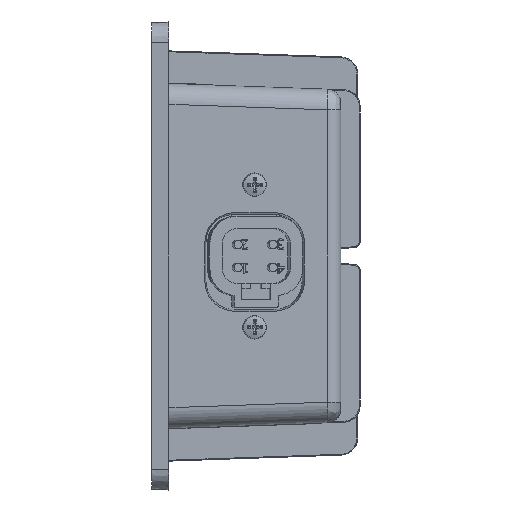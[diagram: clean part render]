
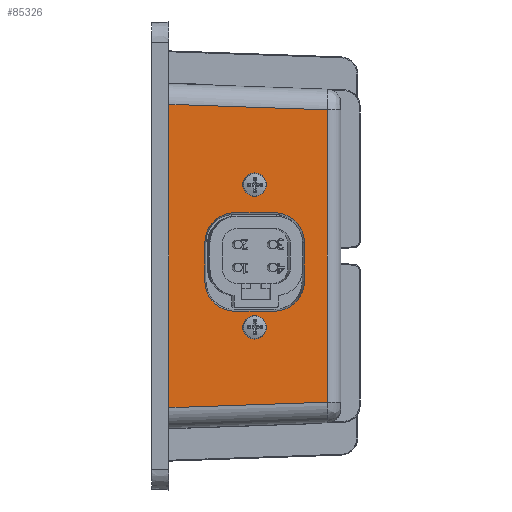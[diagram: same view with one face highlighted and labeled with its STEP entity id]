
A CAD part, left-side view. The second image highlights one B-rep face of the part: STEP entity #85326.
In plain terms, the highlighted planar face has unit normal (-0.999, -0.035, 0).
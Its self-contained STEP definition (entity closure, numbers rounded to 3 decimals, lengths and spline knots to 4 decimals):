
#9497=LINE('',#154017,#16811);
#9498=LINE('',#154024,#16812);
#9499=LINE('',#154026,#16813);
#9500=LINE('',#154027,#16814);
#9501=LINE('',#154030,#16815);
#9502=LINE('',#154034,#16816);
#9503=LINE('',#154038,#16817);
#9504=LINE('',#154042,#16818);
#16811=VECTOR('',#104725,1.8152);
#16812=VECTOR('',#104732,3.3445);
#16813=VECTOR('',#104733,3.4711);
#16814=VECTOR('',#104734,1.8152);
#16815=VECTOR('',#104735,0.444);
#16816=VECTOR('',#104738,0.456);
#16817=VECTOR('',#104741,0.444);
#16818=VECTOR('',#104744,0.456);
#22072=PLANE('',#89923);
#22947=FACE_BOUND('',#31399,.T.);
#22948=FACE_BOUND('',#31400,.T.);
#22949=FACE_BOUND('',#31401,.T.);
#22950=FACE_BOUND('',#31402,.T.);
#31399=EDGE_LOOP('',(#71148));
#31400=EDGE_LOOP('',(#71149));
#31401=EDGE_LOOP('',(#71150,#71151,#71152,#71153));
#31402=EDGE_LOOP('',(#71154,#71155,#71156,#71157,#71158,#71159,#71160,#71161));
#33326=CIRCLE('',#89924,0.135);
#33327=CIRCLE('',#89925,0.135);
#33328=CIRCLE('',#89926,0.3418);
#33329=CIRCLE('',#89927,0.3418);
#33330=CIRCLE('',#89928,0.3418);
#33331=CIRCLE('',#89929,0.3418);
#39811=VERTEX_POINT('',#154011);
#39813=VERTEX_POINT('',#154015);
#39814=VERTEX_POINT('',#154019);
#39815=VERTEX_POINT('',#154021);
#39816=VERTEX_POINT('',#154023);
#39817=VERTEX_POINT('',#154025);
#39818=VERTEX_POINT('',#154028);
#39819=VERTEX_POINT('',#154029);
#39820=VERTEX_POINT('',#154031);
#39821=VERTEX_POINT('',#154033);
#39822=VERTEX_POINT('',#154035);
#39823=VERTEX_POINT('',#154037);
#39824=VERTEX_POINT('',#154039);
#39825=VERTEX_POINT('',#154041);
#50517=EDGE_CURVE('',#39813,#39811,#9497,.T.);
#50518=EDGE_CURVE('',#39814,#39814,#33326,.T.);
#50519=EDGE_CURVE('',#39815,#39815,#33327,.T.);
#50520=EDGE_CURVE('',#39811,#39816,#9498,.T.);
#50521=EDGE_CURVE('',#39813,#39817,#9499,.T.);
#50522=EDGE_CURVE('',#39816,#39817,#9500,.T.);
#50523=EDGE_CURVE('',#39818,#39819,#9501,.T.);
#50524=EDGE_CURVE('',#39820,#39819,#33328,.T.);
#50525=EDGE_CURVE('',#39820,#39821,#9502,.T.);
#50526=EDGE_CURVE('',#39822,#39821,#33329,.T.);
#50527=EDGE_CURVE('',#39822,#39823,#9503,.T.);
#50528=EDGE_CURVE('',#39824,#39823,#33330,.T.);
#50529=EDGE_CURVE('',#39824,#39825,#9504,.T.);
#50530=EDGE_CURVE('',#39818,#39825,#33331,.T.);
#71148=ORIENTED_EDGE('',*,*,#50518,.T.);
#71149=ORIENTED_EDGE('',*,*,#50519,.T.);
#71150=ORIENTED_EDGE('',*,*,#50520,.F.);
#71151=ORIENTED_EDGE('',*,*,#50517,.F.);
#71152=ORIENTED_EDGE('',*,*,#50521,.T.);
#71153=ORIENTED_EDGE('',*,*,#50522,.F.);
#71154=ORIENTED_EDGE('',*,*,#50523,.T.);
#71155=ORIENTED_EDGE('',*,*,#50524,.F.);
#71156=ORIENTED_EDGE('',*,*,#50525,.T.);
#71157=ORIENTED_EDGE('',*,*,#50526,.F.);
#71158=ORIENTED_EDGE('',*,*,#50527,.T.);
#71159=ORIENTED_EDGE('',*,*,#50528,.F.);
#71160=ORIENTED_EDGE('',*,*,#50529,.T.);
#71161=ORIENTED_EDGE('',*,*,#50530,.F.);
#85326=ADVANCED_FACE('',(#22947,#22948,#22949,#22950),#22072,.T.);
#89923=AXIS2_PLACEMENT_3D('',#154018,#104726,#104727);
#89924=AXIS2_PLACEMENT_3D('',#154020,#104728,#104729);
#89925=AXIS2_PLACEMENT_3D('',#154022,#104730,#104731);
#89926=AXIS2_PLACEMENT_3D('',#154032,#104736,#104737);
#89927=AXIS2_PLACEMENT_3D('',#154036,#104739,#104740);
#89928=AXIS2_PLACEMENT_3D('',#154040,#104742,#104743);
#89929=AXIS2_PLACEMENT_3D('',#154043,#104745,#104746);
#104725=DIRECTION('',(0.035,-0.999,-0.035));
#104726=DIRECTION('center_axis',(-0.999,-0.035,
0.));
#104727=DIRECTION('ref_axis',(0.,0.,1.));
#104728=DIRECTION('center_axis',(0.999,0.035,0.));
#104729=DIRECTION('ref_axis',(-0.035,0.999,0.));
#104730=DIRECTION('center_axis',(0.999,0.035,0.));
#104731=DIRECTION('ref_axis',(-0.035,0.999,0.));
#104732=DIRECTION('',(0.,0.,-1.));
#104733=DIRECTION('',(0.,0.,-1.));
#104734=DIRECTION('',(-0.035,0.999,-0.035));
#104735=DIRECTION('',(0.,0.,1.));
#104736=DIRECTION('center_axis',(-0.999,-0.035,
0.));
#104737=DIRECTION('ref_axis',(-0.025,0.707,0.707));
#104738=DIRECTION('',(0.035,-0.999,0.));
#104739=DIRECTION('center_axis',(-0.999,-0.035,
0.));
#104740=DIRECTION('ref_axis',(0.025,-0.707,0.707));
#104741=DIRECTION('',(0.,0.,-1.));
#104742=DIRECTION('center_axis',(-0.999,-0.035,
0.));
#104743=DIRECTION('ref_axis',(0.025,-0.707,-0.707));
#104744=DIRECTION('',(-0.035,0.999,0.));
#104745=DIRECTION('center_axis',(-0.999,-0.035,
0.));
#104746=DIRECTION('ref_axis',(-0.025,0.707,-0.707));
#154011=CARTESIAN_POINT('',(-3.1268,0.027,1.6722));
#154015=CARTESIAN_POINT('',(-3.1901,1.84,1.7355));
#154017=CARTESIAN_POINT('',(-3.1223,-0.1007,1.6678));
#154018=CARTESIAN_POINT('Origin',(-3.1259,-0.0001,
1.903));
#154019=CARTESIAN_POINT('',(-3.1606,0.9953,-0.815));
#154020=CARTESIAN_POINT('Origin',(-3.1559,0.8604,-0.815));
#154021=CARTESIAN_POINT('',(-3.1606,0.9953,0.815));
#154022=CARTESIAN_POINT('Origin',(-3.1559,0.8604,0.815));
#154023=CARTESIAN_POINT('',(-3.1268,0.027,-1.6722));
#154024=CARTESIAN_POINT('',(-3.1268,0.027,0.9515));
#154025=CARTESIAN_POINT('',(-3.1901,1.84,-1.7355));
#154026=CARTESIAN_POINT('',(-3.1901,1.84,0.9515));
#154027=CARTESIAN_POINT('',(-3.1238,-0.0583,-1.6693));
#154028=CARTESIAN_POINT('',(-3.1758,1.4298,-0.29));
#154029=CARTESIAN_POINT('',(-3.1758,1.4298,0.154));
#154030=CARTESIAN_POINT('',(-3.1758,1.4298,1.1895));
#154031=CARTESIAN_POINT('',(-3.1639,1.0882,0.4958));
#154032=CARTESIAN_POINT('Origin',(-3.1639,1.0882,0.154));
#154033=CARTESIAN_POINT('',(-3.148,0.6325,0.4958));
#154034=CARTESIAN_POINT('',(-3.1313,0.1553,0.4958));
#154035=CARTESIAN_POINT('',(-3.136,0.2909,0.154));
#154036=CARTESIAN_POINT('Origin',(-3.148,0.6325,0.154));
#154037=CARTESIAN_POINT('',(-3.136,0.2909,-0.29));
#154038=CARTESIAN_POINT('',(-3.136,0.2909,0.6455));
#154039=CARTESIAN_POINT('',(-3.148,0.6325,-0.6318));
#154040=CARTESIAN_POINT('Origin',(-3.148,0.6325,-0.29));
#154041=CARTESIAN_POINT('',(-3.1639,1.0882,-0.6318));
#154042=CARTESIAN_POINT('',(-3.1505,0.705,-0.6318));
#154043=CARTESIAN_POINT('Origin',(-3.1639,1.0882,-0.29));
